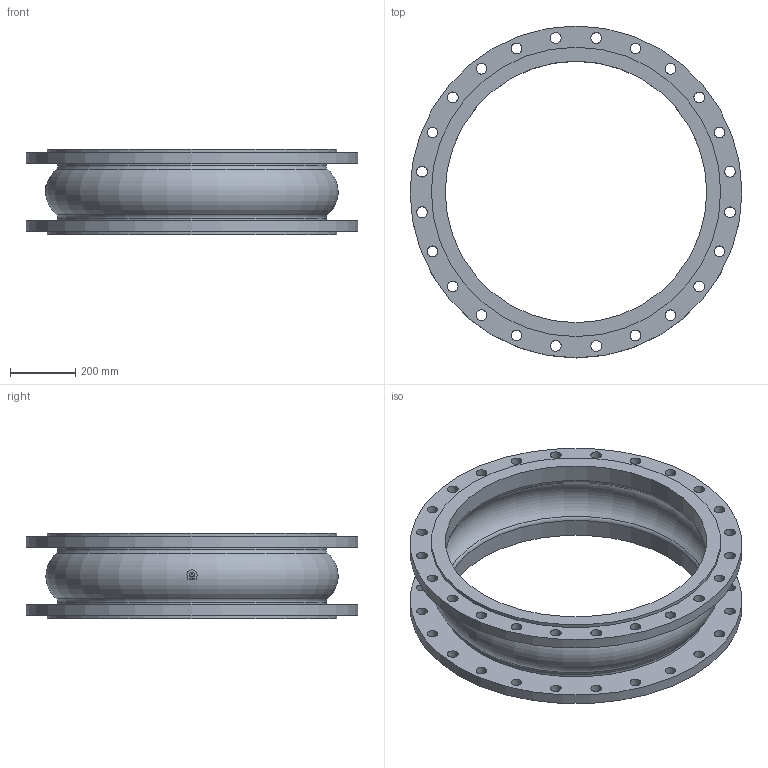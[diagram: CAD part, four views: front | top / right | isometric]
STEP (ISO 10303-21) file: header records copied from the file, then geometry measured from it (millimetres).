
FILE_DESCRIPTION(('STEP AP203'), '1');
FILE_NAME('Êîìïåíñàòîð KMS DN800 PN10_L260', '', ('UNSPECIFIED'), ('UNSPECIFIED'), 'ASCON STEP Converter 1.6', 'ASCON Math Kernel', '');
FILE_SCHEMA(('CONFIG_CONTROL_DESIGN'));
Length unit declared in the file: millimetre
Bounding box: 1015 x 1015 x 260 mm (x, y, z)
Volume: 25905171.1 mm3; surface area: 2784327.1 mm2
Topology: 1 solids, 1 shells, 85 faces, 220 edges, 144 vertices
Faces by surface type: cylinder 63, plane 13, torus 9
Full cylindrical faces by diameter (mm): 33 x48, 800 x2, 820 x2, 885 x2, 1015 x2
Entity records: 4183 total; most frequent: CARTESIAN_POINT 1362, DIRECTION 430, ORIENTED_EDGE 316, EDGE_LOOP 252, AXIS2_PLACEMENT_3D 208, EDGE_CURVE 158, VERTEX_POINT 144, FACE_BOUND 128
